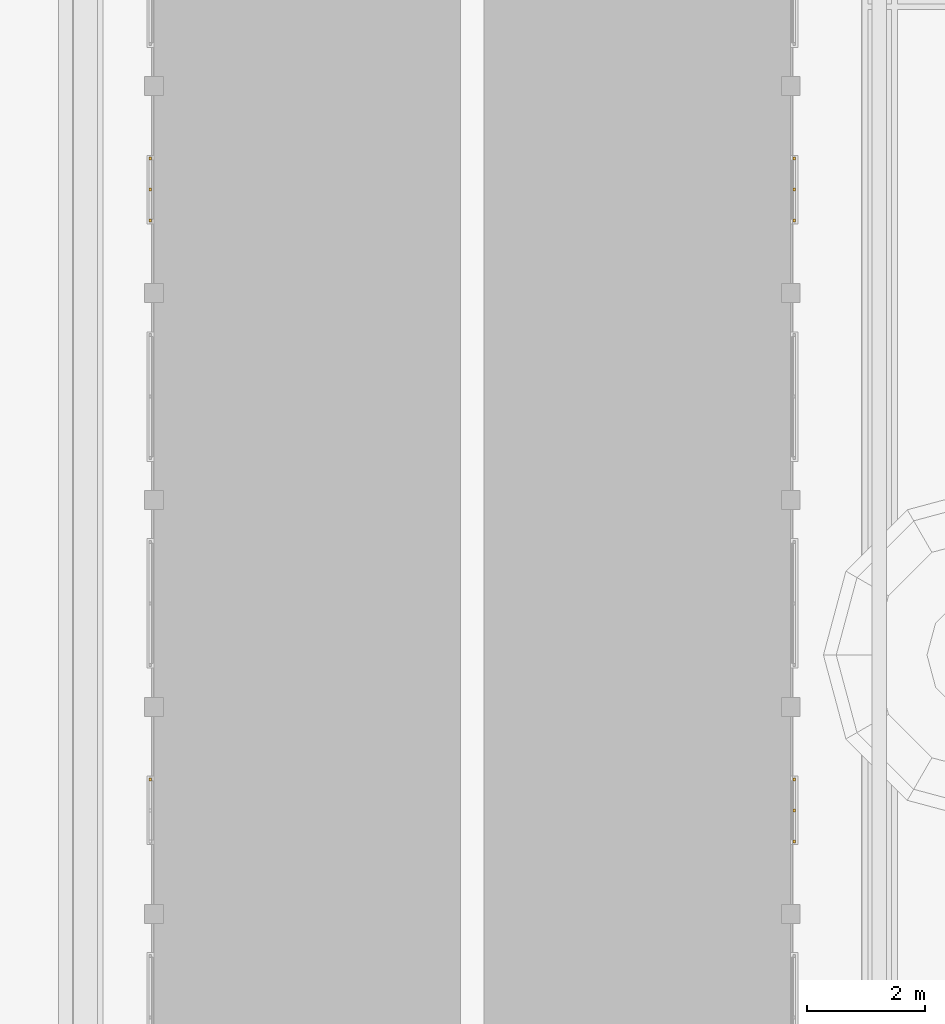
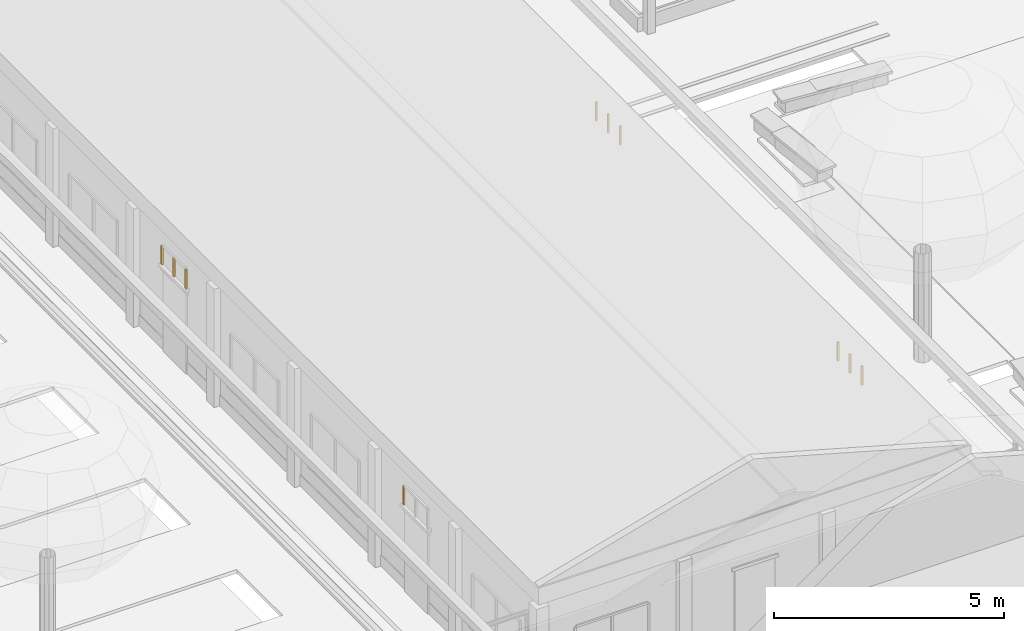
# One storey, part 79 of 177: 10 windows.
"""IFC4 building model written with IfcOpenShell, lengths in metres."""

from ifc_helpers import new_model, si_unit, origin, origin_with_axes, place, context, subcontext, project, spatial, triangles, element, save


model = new_model("IFC4")

# Units and contexts
model_context = context("Model", 3, precision=1e-05, world=origin_with_axes())
body_context = subcontext(model_context, "Body", "Model", "MODEL_VIEW")
ifc_project = project(units=[si_unit("LENGTHUNIT", "METRE"), si_unit("AREAUNIT", "SQUARE_METRE"), si_unit("VOLUMEUNIT", "CUBIC_METRE"), si_unit("PLANEANGLEUNIT", "RADIAN")], contexts=[model_context])

# Site, building, storey
site_placement = place(None, origin_with_axes())
site = spatial("IfcSite", under=ifc_project, at=site_placement, Name="Predio Los Mangos - Morales, San Martín", CompositionType="ELEMENT")
building_placement = place(site_placement, origin())
building = spatial("IfcBuilding", under=site, at=building_placement, Name="Hogar de Refugio Temporal", CompositionType="ELEMENT")
storey_placement = place(building_placement, origin())
storey = spatial("IfcBuildingStorey", under=building, at=storey_placement, Name="NIVEL 1 (NPT +0.00)", CompositionType="ELEMENT", Elevation=0.0)

# Windows
window_1_placement = place(storey_placement, origin())
element("IfcWindow", 1, at=window_1_placement, inside=storey, Name="E-04_vt1_m", ObjectType="Ventana", PredefinedType="WINDOW", context=body_context, shape_type="Tessellation", body=[
    triangles([(13.72, 57.865, 2.45), (13.76, 57.865, 2.45), (13.76, 57.915, 2.45), (13.72, 57.915, 2.45), (13.72, 57.865, 2.95), (13.76, 57.865, 2.95), (13.76, 57.915, 2.95), (13.72, 57.915, 2.95)], [[1, 4, 3], [1, 3, 2], [5, 6, 7], [5, 7, 8], [1, 2, 6], [1, 6, 5], [2, 3, 7], [2, 7, 6], [3, 4, 8], [3, 8, 7], [4, 1, 5], [4, 5, 8]]),
])
window_2_placement = place(storey_placement, origin())
element("IfcWindow", 2, at=window_2_placement, inside=storey, Name="E-04_vt4_m", ObjectType="Ventana", PredefinedType="WINDOW", context=body_context, shape_type="Tessellation", body=[
    triangles([(13.72, 67.345, 2.45), (13.76, 67.345, 2.45), (13.76, 67.395, 2.45), (13.72, 67.395, 2.45), (13.72, 67.345, 2.95), (13.76, 67.345, 2.95), (13.76, 67.395, 2.95), (13.72, 67.395, 2.95)], [[1, 4, 3], [1, 3, 2], [5, 6, 7], [5, 7, 8], [1, 2, 6], [1, 6, 5], [2, 3, 7], [2, 7, 6], [3, 4, 8], [3, 8, 7], [4, 1, 5], [4, 5, 8]]),
])
window_3_placement = place(storey_placement, origin())
element("IfcWindow", 3, at=window_3_placement, inside=storey, Name="E-04_vt4_m", ObjectType="Ventana", PredefinedType="WINDOW", context=body_context, shape_type="Tessellation", body=[
    triangles([(13.72, 68.395, 2.45), (13.76, 68.395, 2.45), (13.76, 68.445, 2.45), (13.72, 68.445, 2.45), (13.72, 68.395, 2.95), (13.76, 68.395, 2.95), (13.76, 68.445, 2.95), (13.72, 68.445, 2.95)], [[1, 4, 3], [1, 3, 2], [5, 6, 7], [5, 7, 8], [1, 2, 6], [1, 6, 5], [2, 3, 7], [2, 7, 6], [3, 4, 8], [3, 8, 7], [4, 1, 5], [4, 5, 8]]),
])
window_4_placement = place(storey_placement, origin())
element("IfcWindow", 4, at=window_4_placement, inside=storey, Name="E-04_vt4_m", ObjectType="Ventana", PredefinedType="WINDOW", context=body_context, shape_type="Tessellation", body=[
    triangles([(13.72, 67.87, 2.45), (13.76, 67.87, 2.45), (13.76, 67.92, 2.45), (13.72, 67.92, 2.45), (13.72, 67.87, 2.95), (13.76, 67.87, 2.95), (13.76, 67.92, 2.95), (13.72, 67.92, 2.95)], [[1, 4, 3], [1, 3, 2], [5, 6, 7], [5, 7, 8], [1, 2, 6], [1, 6, 5], [2, 3, 7], [2, 7, 6], [3, 4, 8], [3, 8, 7], [4, 1, 5], [4, 5, 8]]),
])
window_5_placement = place(storey_placement, origin())
element("IfcWindow", 5, at=window_5_placement, inside=storey, Name="E-04_vt1_m", ObjectType="Ventana", PredefinedType="WINDOW", context=body_context, shape_type="Tessellation", body=[
    triangles([(24.64, 56.815, 2.45), (24.68, 56.815, 2.45), (24.68, 56.865, 2.45), (24.64, 56.865, 2.45), (24.64, 56.815, 2.95), (24.68, 56.815, 2.95), (24.68, 56.865, 2.95), (24.64, 56.865, 2.95)], [[1, 4, 3], [1, 3, 2], [5, 6, 7], [5, 7, 8], [1, 2, 6], [1, 6, 5], [2, 3, 7], [2, 7, 6], [3, 4, 8], [3, 8, 7], [4, 1, 5], [4, 5, 8]]),
])
window_6_placement = place(storey_placement, origin())
element("IfcWindow", 6, at=window_6_placement, inside=storey, Name="E-04_vt1_m", ObjectType="Ventana", PredefinedType="WINDOW", context=body_context, shape_type="Tessellation", body=[
    triangles([(24.64, 57.865, 2.45), (24.68, 57.865, 2.45), (24.68, 57.915, 2.45), (24.64, 57.915, 2.45), (24.64, 57.865, 2.95), (24.68, 57.865, 2.95), (24.68, 57.915, 2.95), (24.64, 57.915, 2.95)], [[1, 4, 3], [1, 3, 2], [5, 6, 7], [5, 7, 8], [1, 2, 6], [1, 6, 5], [2, 3, 7], [2, 7, 6], [3, 4, 8], [3, 8, 7], [4, 1, 5], [4, 5, 8]]),
])
window_7_placement = place(storey_placement, origin())
element("IfcWindow", 7, at=window_7_placement, inside=storey, Name="E-04_vt1_m", ObjectType="Ventana", PredefinedType="WINDOW", context=body_context, shape_type="Tessellation", body=[
    triangles([(24.64, 57.34, 2.45), (24.68, 57.34, 2.45), (24.68, 57.39, 2.45), (24.64, 57.39, 2.45), (24.64, 57.34, 2.95), (24.68, 57.34, 2.95), (24.68, 57.39, 2.95), (24.64, 57.39, 2.95)], [[1, 4, 3], [1, 3, 2], [5, 6, 7], [5, 7, 8], [1, 2, 6], [1, 6, 5], [2, 3, 7], [2, 7, 6], [3, 4, 8], [3, 8, 7], [4, 1, 5], [4, 5, 8]]),
])
window_8_placement = place(storey_placement, origin())
element("IfcWindow", 8, at=window_8_placement, inside=storey, Name="E-04_vt4_m", ObjectType="Ventana", PredefinedType="WINDOW", context=body_context, shape_type="Tessellation", body=[
    triangles([(24.64, 67.345, 2.45), (24.68, 67.345, 2.45), (24.68, 67.395, 2.45), (24.64, 67.395, 2.45), (24.64, 67.345, 2.95), (24.68, 67.345, 2.95), (24.68, 67.395, 2.95), (24.64, 67.395, 2.95)], [[1, 4, 3], [1, 3, 2], [5, 6, 7], [5, 7, 8], [1, 2, 6], [1, 6, 5], [2, 3, 7], [2, 7, 6], [3, 4, 8], [3, 8, 7], [4, 1, 5], [4, 5, 8]]),
])
window_9_placement = place(storey_placement, origin())
element("IfcWindow", 9, at=window_9_placement, inside=storey, Name="E-04_vt4_m", ObjectType="Ventana", PredefinedType="WINDOW", context=body_context, shape_type="Tessellation", body=[
    triangles([(24.64, 68.395, 2.45), (24.68, 68.395, 2.45), (24.68, 68.445, 2.45), (24.64, 68.445, 2.45), (24.64, 68.395, 2.95), (24.68, 68.395, 2.95), (24.68, 68.445, 2.95), (24.64, 68.445, 2.95)], [[1, 4, 3], [1, 3, 2], [5, 6, 7], [5, 7, 8], [1, 2, 6], [1, 6, 5], [2, 3, 7], [2, 7, 6], [3, 4, 8], [3, 8, 7], [4, 1, 5], [4, 5, 8]]),
])
window_10_placement = place(storey_placement, origin())
element("IfcWindow", 10, at=window_10_placement, inside=storey, Name="E-04_vt4_m", ObjectType="Ventana", PredefinedType="WINDOW", context=body_context, shape_type="Tessellation", body=[
    triangles([(24.64, 67.87, 2.45), (24.68, 67.87, 2.45), (24.68, 67.92, 2.45), (24.64, 67.92, 2.45), (24.64, 67.87, 2.95), (24.68, 67.87, 2.95), (24.68, 67.92, 2.95), (24.64, 67.92, 2.95)], [[1, 4, 3], [1, 3, 2], [5, 6, 7], [5, 7, 8], [1, 2, 6], [1, 6, 5], [2, 3, 7], [2, 7, 6], [3, 4, 8], [3, 8, 7], [4, 1, 5], [4, 5, 8]]),
])

save(model, "model.ifc")
